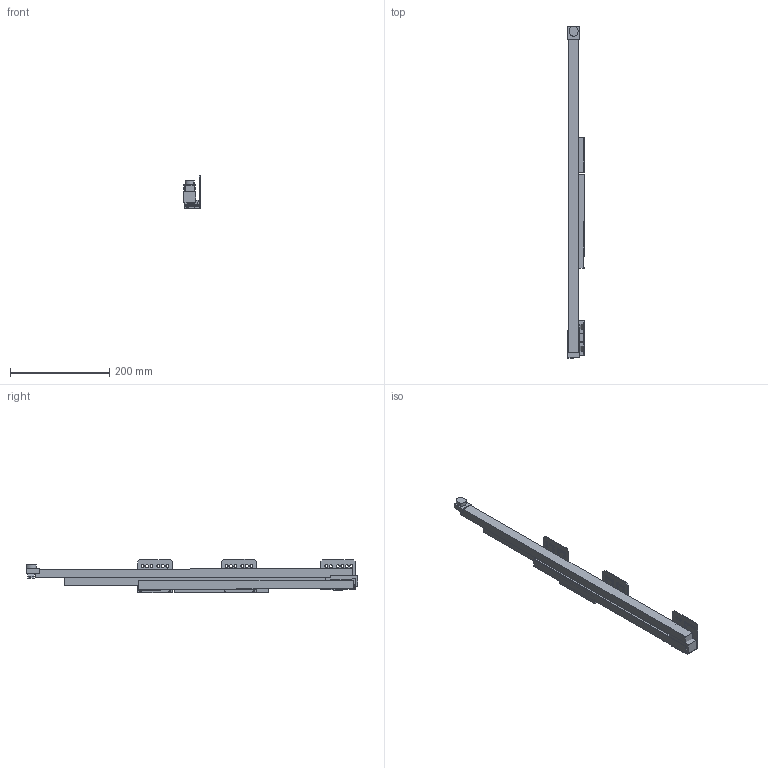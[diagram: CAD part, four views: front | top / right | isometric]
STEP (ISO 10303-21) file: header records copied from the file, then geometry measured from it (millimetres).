
FILE_DESCRIPTION (( 'STEP AP214' ), '1' );
FILE_NAME ('_IMOS Dynamic-XP VA 60kg NL650 RE Tipmatic.step', '2010-07-08T13:27:36', ( 'grass' ), ( '' ), 'SwSTEP 2.0', 'SolidWorks 2010', '' );
FILE_SCHEMA (( 'AUTOMOTIVE_DESIGN' ));
Length unit declared in the file: millimetre
Products named in the file (1): _IMOS Dynamic-XP VA 60kg NL650 RE Tipmatic
Bounding box: 33.14 x 668.02 x 66.67 mm (x, y, z)
Volume: 519882.9 mm3; surface area: 197570.4 mm2
Topology: 9 solids, 9 shells, 238 faces, 652 edges, 434 vertices
Faces by surface type: plane 167, cylinder 71
Entity records: 7758 total; most frequent: CARTESIAN_POINT 1325, ORIENTED_EDGE 1304, DIRECTION 1274, EDGE_CURVE 652, VECTOR 508, LINE 508, VERTEX_POINT 434, AXIS2_PLACEMENT_3D 383
